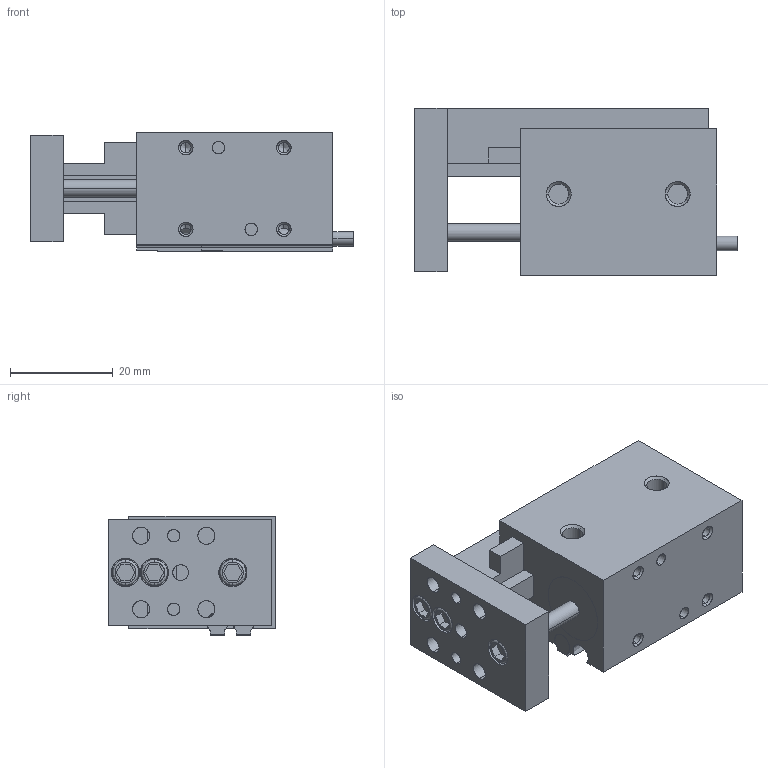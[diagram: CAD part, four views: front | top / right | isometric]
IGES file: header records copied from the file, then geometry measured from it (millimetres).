
Start section: SolidWorks IGES file using analytic representation for surfaces
Global section: file name: C:\Users\jmkuhnes\Pictures\My Transfers\AGMS\AGMS-1-1\AGMS-1-1 EXTENDED in IN.IGS; native system: SolidWorks 2013; preprocessor: SolidWorks 2013; author: jmkuhnes; date: 141106.085610; units: inch
Bounding box: 62.75 x 32.49 x 23.2 mm (x, y, z)
Surface area: 15279.5 mm2 (no closed solid volume)
Topology: 0 solids, 0 shells, 293 faces, 4306 edges, 4294 vertices
Faces by surface type: revolution 158, bspline 135
